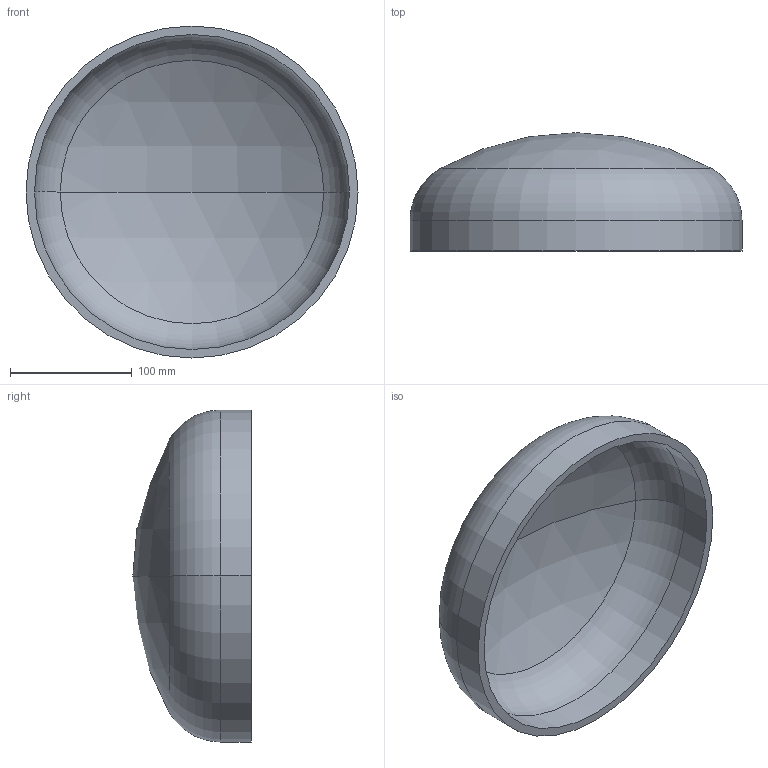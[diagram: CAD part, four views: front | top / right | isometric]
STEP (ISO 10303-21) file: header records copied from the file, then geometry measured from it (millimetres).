
FILE_DESCRIPTION (( 'STEP AP203' ), '1' );
FILE_NAME ('DIN 28013 Korbbogenform_-_Boden DIN 28013 - 273 x 25 - I - s=7.step', '2016-07-01T07:42:55', ( '' ), ( '' ), 'SwSTEP 2.0', 'SolidWorks 2013', '' );
FILE_SCHEMA (( 'CONFIG_CONTROL_DESIGN' ));
Length unit declared in the file: millimetre
Products named in the file (1): DIN 28013 Korbbogenform_-_Boden DIN 28013 - 273 x 25 - I - s=7
Bounding box: 273 x 97.29 x 273 mm (x, y, z)
Volume: 694941.4 mm3; surface area: 204506.9 mm2
Topology: 1 solids, 1 shells, 13 faces, 24 edges, 14 vertices
Faces by surface type: torus 4, cylinder 4, sphere 4, plane 1
Entity records: 407 total; most frequent: DIRECTION 72, CARTESIAN_POINT 52, ORIENTED_EDGE 48, AXIS2_PLACEMENT_3D 34, EDGE_CURVE 24, CIRCLE 20, EDGE_LOOP 14, VERTEX_POINT 14
